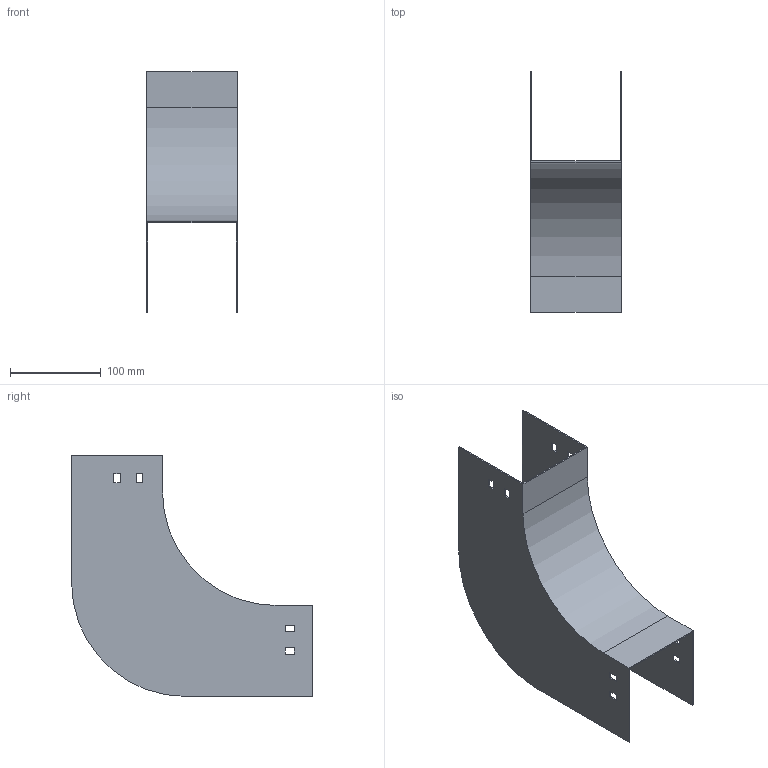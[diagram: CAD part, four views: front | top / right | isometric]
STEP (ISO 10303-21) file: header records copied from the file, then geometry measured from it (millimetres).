
FILE_DESCRIPTION (( 'STEP AP214' ), '1' );
FILE_NAME ('D9_101.step', '2025-07-16T09:08:13', ( '' ), ( '' ), 'SwSTEP 2.0', 'SolidWorks 2023', '' );
FILE_SCHEMA (( 'AUTOMOTIVE_DESIGN' ));
Length unit declared in the file: millimetre
Products named in the file (1): D9_101
Bounding box: 100 x 265 x 265 mm (x, y, z)
Volume: 168540.3 mm3; surface area: 227444.9 mm2
Topology: 1 solids, 1 shells, 50 faces, 144 edges, 96 vertices
Faces by surface type: plane 46, cylinder 4
Entity records: 1671 total; most frequent: CARTESIAN_POINT 291, ORIENTED_EDGE 288, DIRECTION 254, EDGE_CURVE 144, VECTOR 136, LINE 136, VERTEX_POINT 96, EDGE_LOOP 66
